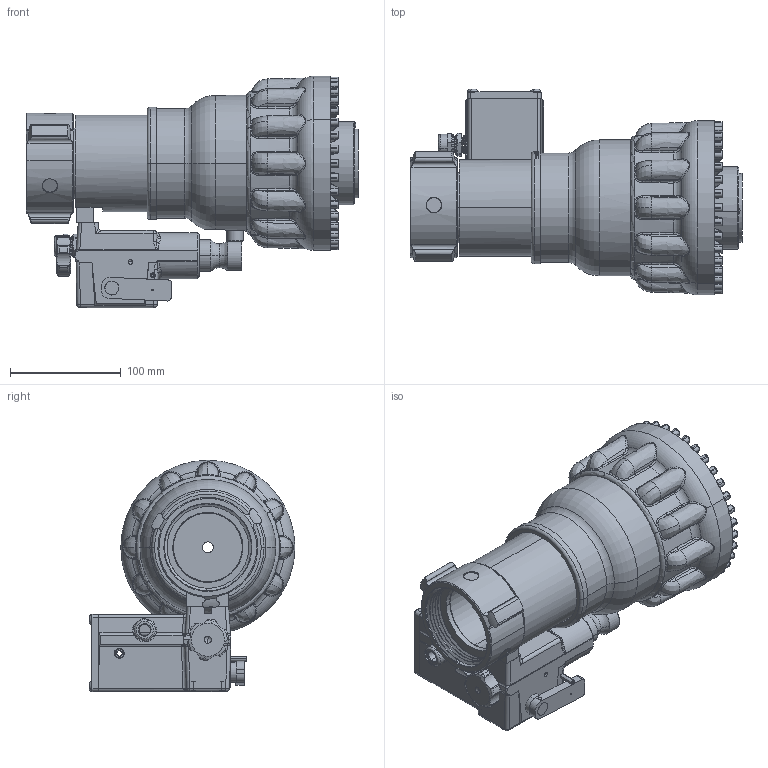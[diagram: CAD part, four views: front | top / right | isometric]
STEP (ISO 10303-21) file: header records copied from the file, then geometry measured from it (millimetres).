
FILE_DESCRIPTION (( 'STEP AP203' ), '1' );
FILE_NAME ('M-ERS1000-NJ.STEP', '2016-06-02T21:16:04', ( '' ), ( '' ), 'SwSTEP 2.0', 'SolidWorks 2015', '' );
FILE_SCHEMA (( 'CONFIG_CONTROL_DESIGN' ));
Products named in the file (1): M-ERS1000-NJ
Bounding box: 300.42 x 186.21 x 209.35 mm (x, y, z)
Surface area: 318863.8 mm2 (no closed solid volume)
Topology: 0 solids, 49 shells, 1900 faces, 6131 edges, 4044 vertices
Faces by surface type: cylinder 625, bspline 595, plane 429, torus 149, cone 77, sphere 25
Entity records: 109000 total; most frequent: CARTESIAN_POINT 62887, ORIENTED_EDGE 10267, DIRECTION 7851, EDGE_CURVE 6108, VERTEX_POINT 4044, AXIS2_PLACEMENT_3D 3051, B_SPLINE_CURVE_WITH_KNOTS 2173, EDGE_LOOP 2002
